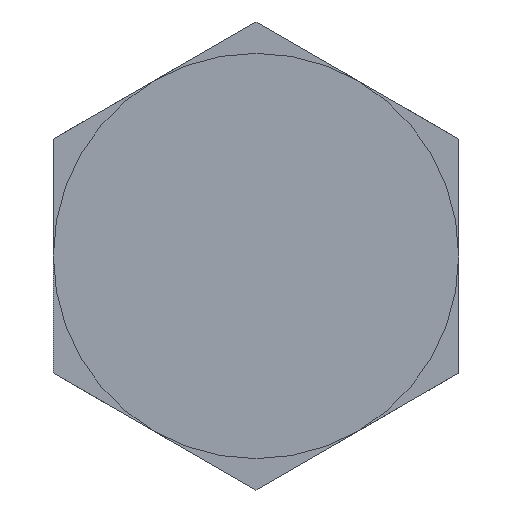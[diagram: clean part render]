
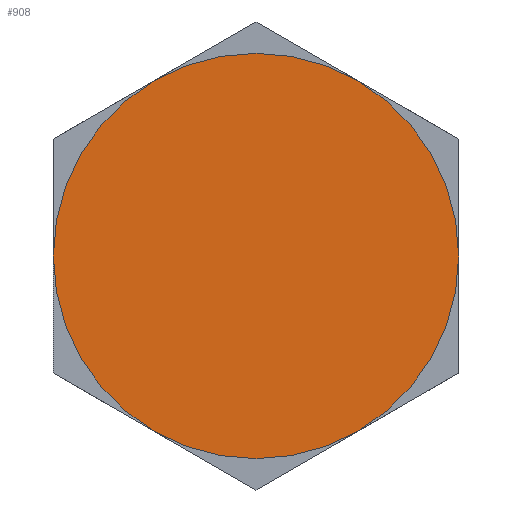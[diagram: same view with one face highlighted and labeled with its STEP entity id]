
A CAD part, left-side view. The second image highlights one B-rep face of the part: STEP entity #908.
In plain terms, the highlighted planar face has unit normal (-1, 0, 0).
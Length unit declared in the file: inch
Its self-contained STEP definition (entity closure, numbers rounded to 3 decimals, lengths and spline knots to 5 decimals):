
#28 = CIRCLE ( 'NONE', #681, 0.625 ) ;
#134 = CIRCLE ( 'NONE', #675, 0.625 ) ;
#153 = ORIENTED_EDGE ( 'NONE', *, *, #741, .F. ) ;
#162 = VERTEX_POINT ( 'NONE', #895 ) ;
#215 = VERTEX_POINT ( 'NONE', #837 ) ;
#270 = ORIENTED_EDGE ( 'NONE', *, *, #756, .F. ) ;
#287 = EDGE_LOOP ( 'NONE', ( #153, #270 ) ) ;
#494 = CARTESIAN_POINT ( 'NONE',  ( -4.786, 0., 0. ) ) ;
#495 = DIRECTION ( 'NONE',  ( 1., 0., 0. ) ) ;
#496 = DIRECTION ( 'NONE',  ( 0., 0., -1. ) ) ;
#620 = AXIS2_PLACEMENT_3D ( 'NONE', #804, #805, #806 ) ;
#675 = AXIS2_PLACEMENT_3D ( 'NONE', #1016, #1018, #1020 ) ;
#681 = AXIS2_PLACEMENT_3D ( 'NONE', #494, #495, #496 ) ;
#741 = EDGE_CURVE ( 'NONE', #162, #215, #28, .T. ) ;
#756 = EDGE_CURVE ( 'NONE', #215, #162, #134, .T. ) ;
#804 = CARTESIAN_POINT ( 'NONE',  ( -4.786, 0.625, 0. ) ) ;
#805 = DIRECTION ( 'NONE',  ( -1., 0., 0. ) ) ;
#806 = DIRECTION ( 'NONE',  ( 0., 0., 1. ) ) ;
#837 = CARTESIAN_POINT ( 'NONE',  ( -4.786, 0., 0.625 ) ) ;
#895 = CARTESIAN_POINT ( 'NONE',  ( -4.786, 0., -0.625 ) ) ;
#908 = ADVANCED_FACE ( 'NONE', ( #1077 ), #987, .T. ) ;
#987 = PLANE ( 'NONE',  #620 ) ;
#1016 = CARTESIAN_POINT ( 'NONE',  ( -4.786, 0., 0. ) ) ;
#1018 = DIRECTION ( 'NONE',  ( 1., 0., 0. ) ) ;
#1020 = DIRECTION ( 'NONE',  ( 0., 0., -1. ) ) ;
#1077 = FACE_OUTER_BOUND ( 'NONE', #287, .T. ) ;
